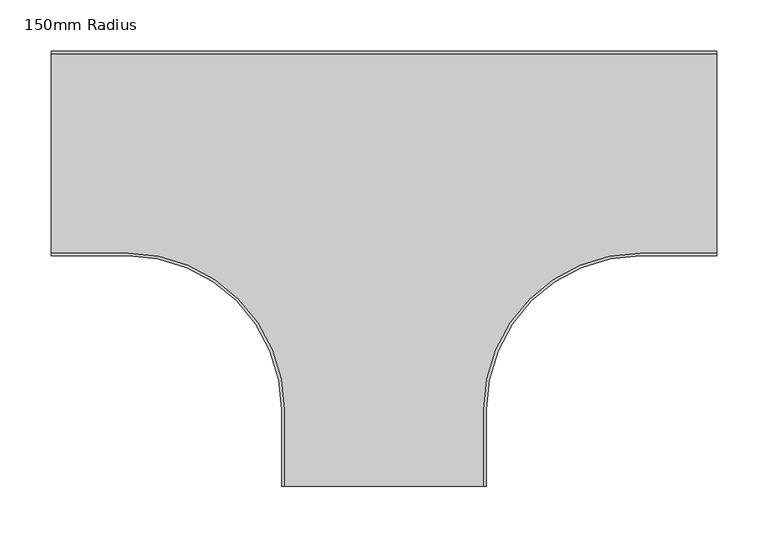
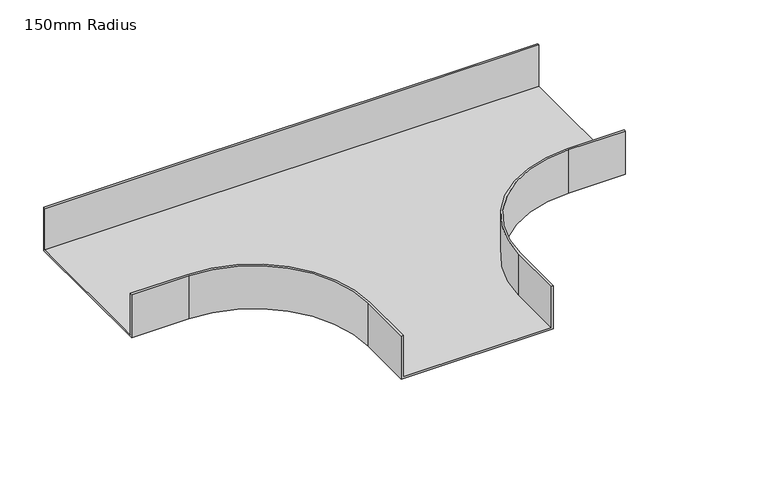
"""IFC4 building model written with IfcOpenShell, lengths in millimetres: cable carrier fitting geometry, AI_Raccord cdc_Té : 150mm Radius."""

from ifc_helpers import new_model, si_unit, frame, origin, place, context, project, spatial, polyline, circle_curve, source, transform, mapped, element, save
from ifc_brep_helpers import plane_surface, cylinder_surface, revolved_surface, advanced_brep


def cable_carrier_fitting_150mm_radius_3a3edb3e(model_context):
    return source(origin(), model_context, "Body", "AdvancedBrep", [
        advanced_brep(
        [(-100.0, -250.0, 30.0), (-100.0, -325.0, 30.0), (-97.46, -325.0, 30.0), (-97.46, -250.0, 30.0), (-250.0, -97.46, 30.0), (-325.0, -97.46, 30.0), (-325.0, -100.0, 30.0), (-250.0, -100.0, 30.0), (100.0, -250.0, 30.0), (250.0, -100.0, 30.0), (325.0, -100.0, 30.0), (325.0, -97.46, 30.0), (250.0, -97.46, 30.0), (97.46, -250.0, 30.0), (97.46, -325.0, 30.0), (100.0, -325.0, 30.0), (325.0, 100.0, 30.0), (-325.0, 100.0, 30.0), (-325.0, 97.46, 30.0), (325.0, 97.46, 30.0), (-100.0, -250.0, -30.0), (-250.0, -100.0, -30.0), (-325.0, -100.0, -30.0), (-325.0, 100.0, -30.0), (325.0, 100.0, -30.0), (325.0, -100.0, -30.0), (250.0, -100.0, -30.0), (100.0, -250.0, -30.0), (100.0, -325.0, -30.0), (-100.0, -325.0, -30.0), (-100.0, -250.0, -27.46), (97.46, -325.0, -27.46), (-97.46, -325.0, -27.46), (-97.46, -250.0, -27.46), (-250.0, -97.46, -27.46), (-325.0, -97.46, -27.46), (-325.0, 97.46, -27.46), (-250.0, -100.0, -27.46), (100.0, -250.0, -27.46), (250.0, -100.0, -27.46), (325.0, 97.46, -27.46), (325.0, -97.46, -27.46), (250.0, -97.46, -27.46), (97.46, -250.0, -27.46)],
        [
            (0, 1),
            (1, 2),
            (2, 3),
            (3, 4, circle_curve(frame((-250.0, -250.0, 30.0), z_axis=(0.0, 0.0, 1.0), x_axis=(1.0, 0.0, 0.0)), 152.54)),
            (4, 5),
            (5, 6),
            (6, 7),
            (7, 0, circle_curve(frame((-250.0, -250.0, 30.0), z_axis=(0.0, 0.0, -1.0), x_axis=(1.0, 0.0, 0.0)), 150.0)),
            (8, 9, circle_curve(frame((250.0, -250.0, 30.0), z_axis=(0.0, 0.0, -1.0), x_axis=(1.0, 0.0, 0.0)), 150.0)),
            (9, 10),
            (10, 11),
            (11, 12),
            (12, 13, circle_curve(frame((250.0, -250.0, 30.0), z_axis=(0.0, 0.0, 1.0), x_axis=(1.0, 0.0, 0.0)), 152.54)),
            (13, 14),
            (14, 15),
            (15, 8),
            (16, 17),
            (17, 18),
            (18, 19),
            (19, 16),
            (20, 21, circle_curve(frame((-250.0, -250.0, -30.0), z_axis=(0.0, 0.0, 1.0), x_axis=(1.0, 0.0, 0.0)), 150.0)),
            (21, 22),
            (22, 23),
            (23, 24),
            (24, 25),
            (25, 26),
            (26, 27, circle_curve(frame((250.0, -250.0, -30.0), z_axis=(0.0, 0.0, 1.0), x_axis=(1.0, 0.0, 0.0)), 150.0)),
            (27, 28),
            (28, 29),
            (29, 20),
            (29, 1),
            (0, 30),
            (30, 20),
            (28, 15),
            (14, 31),
            (31, 32),
            (32, 2),
            (32, 33),
            (33, 3),
            (33, 34, circle_curve(frame((-250.0, -250.0, -27.46), z_axis=(0.0, 0.0, 1.0), x_axis=(1.0, 0.0, 0.0)), 152.54)),
            (34, 4),
            (34, 35),
            (35, 5),
            (35, 36),
            (36, 18),
            (17, 23),
            (22, 6),
            (21, 37),
            (37, 7),
            (8, 38),
            (38, 27),
            (26, 39),
            (39, 9),
            (25, 10),
            (24, 16),
            (19, 40),
            (40, 41),
            (41, 11),
            (41, 42),
            (42, 12),
            (42, 43, circle_curve(frame((250.0, -250.0, -27.46), z_axis=(0.0, 0.0, 1.0), x_axis=(1.0, 0.0, 0.0)), 152.54)),
            (43, 13),
            (43, 31),
            (36, 40),
        ],
        [
            plane_surface(frame((-100.0, -250.0, 30.0), z_axis=(0.0, 0.0, 1.0), x_axis=(0.0, -1.0, 0.0))),
            plane_surface(frame((-100.0, -250.0, -30.0), z_axis=(0.0, 0.0, -1.0), x_axis=(0.0, 1.0, 0.0))),
            plane_surface(frame((-100.0, -250.0, 30.0), z_axis=(-1.0, 0.0, 0.0), x_axis=(0.0, 0.0, -1.0))),
            plane_surface(frame((-100.0, -325.0, 30.0), z_axis=(0.0, -1.0, 0.0), x_axis=(0.0, 0.0, -1.0))),
            plane_surface(frame((-97.46, -325.0, 30.0), z_axis=(1.0, 0.0, 0.0), x_axis=(0.0, 0.0, -1.0))),
            cylinder_surface(frame((-250.0, -250.0, -30.0), z_axis=(0.0, 0.0, 1.0), x_axis=(1.0, 0.0, 0.0)), 152.54),
            plane_surface(frame((-250.0, -97.46, 30.0), z_axis=(0.0, 1.0, 0.0), x_axis=(0.0, 0.0, -1.0))),
            plane_surface(frame((-325.0, -97.46, 30.0), z_axis=(-1.0, 0.0, 0.0), x_axis=(0.0, 0.0, -1.0))),
            plane_surface(frame((-325.0, -100.0, 30.0), z_axis=(0.0, -1.0, 0.0), x_axis=(0.0, 0.0, -1.0))),
            revolved_surface(polyline([(-100.0, -250.0, -30.0), (-100.0, -250.0, 30.0)]), (-250.0, -250.0, -30.0), (0.0, 0.0, -1.0)),
            revolved_surface(polyline([(400.0, -250.0, -30.0), (400.0, -250.0, 30.0)]), (250.0, -250.0, 0.0), (0.0, 0.0, -1.0)),
            plane_surface(frame((250.0, -100.0, 30.0), z_axis=(0.0, -1.0, 0.0), x_axis=(0.0, 0.0, -1.0))),
            plane_surface(frame((325.0, -100.0, 30.0), z_axis=(1.0, 0.0, 0.0), x_axis=(0.0, 0.0, -1.0))),
            plane_surface(frame((325.0, -97.46, 30.0), z_axis=(0.0, 1.0, 0.0), x_axis=(0.0, 0.0, -1.0))),
            cylinder_surface(frame((250.0, -250.0, 0.0), z_axis=(0.0, 0.0, 1.0), x_axis=(1.0, 0.0, 0.0)), 152.54),
            plane_surface(frame((97.46, -250.0, 30.0), z_axis=(-1.0, 0.0, 0.0), x_axis=(0.0, 0.0, -1.0))),
            plane_surface(frame((100.0, -325.0, 30.0), z_axis=(1.0, 0.0, 0.0), x_axis=(0.0, 0.0, -1.0))),
            plane_surface(frame((325.0, 100.0, 30.0), z_axis=(0.0, 1.0, 0.0), x_axis=(0.0, 0.0, -1.0))),
            plane_surface(frame((-325.0, 97.46, 30.0), z_axis=(0.0, -1.0, 0.0), x_axis=(0.0, 0.0, -1.0))),
            plane_surface(frame((-100.0, -250.0, -27.46), z_axis=(0.0, 0.0, 1.0), x_axis=(0.0, -1.0, 0.0))),
        ],
        [
            (0, [[1, 2, 3, 4, 5, 6, 7, 8]]),
            (0, [[9, 10, 11, 12, 13, 14, 15, 16]]),
            (0, [[17, 18, 19, 20]]),
            (1, [[21, 22, 23, 24, 25, 26, 27, 28, 29, 30]]),
            (2, [[31, -1, 32, 33, -30]]),
            (3, [[-2, -31, -29, 34, -15, 35, 36, 37]]),
            (4, [[-3, -37, 38, 39]]),
            (5, [[-4, -39, 40, 41]]),
            (6, [[-5, -41, 42, 43]]),
            (7, [[-6, -43, 44, 45, -18, 46, -23, 47]]),
            (8, [[-7, -47, -22, 48, 49]]),
            (9, [[-8, -49, -48, -21, -33, -32]]),
            (10, [[-9, 50, 51, -27, 52, 53]]),
            (11, [[54, -10, -53, -52, -26]]),
            (12, [[-11, -54, -25, 55, -20, 56, 57, 58]]),
            (13, [[-12, -58, 59, 60]]),
            (14, [[-13, -60, 61, 62]]),
            (15, [[-14, -62, 63, -35]]),
            (16, [[-16, -34, -28, -51, -50]]),
            (17, [[-46, -17, -55, -24]]),
            (18, [[-19, -45, 64, -56]]),
            (19, [[-36, -63, -61, -59, -57, -64, -44, -42, -40, -38]]),
        ],
    ),
    ])


if __name__ == "__main__":
    model = new_model("IFC4")
    model_context = context("Model", 3, world=origin())
    ifc_project = project(units=[si_unit("LENGTHUNIT", "METRE", prefix="MILLI")], contexts=[model_context])
    site = spatial("IfcSite", under=ifc_project)
    building = spatial("IfcBuilding", under=site)
    placement = place(None, origin())
    cable_carrier_fitting_150mm_radius_shape = cable_carrier_fitting_150mm_radius_3a3edb3e(model_context)
    element("IfcCableCarrierFitting", 1, ObjectType="AI_Raccord cdc_Té : 150mm Radius", at=placement, inside=building, context=model_context, shape_type="MappedRepresentation", body=[
        mapped(cable_carrier_fitting_150mm_radius_shape, transform((0.0, 0.0, 0.0), x_axis=(1.0, 0.0, 0.0), y_axis=(0.0, 1.0, 0.0), z_axis=(0.0, 0.0, 1.0))),
    ])
    save(model, "model.ifc")
